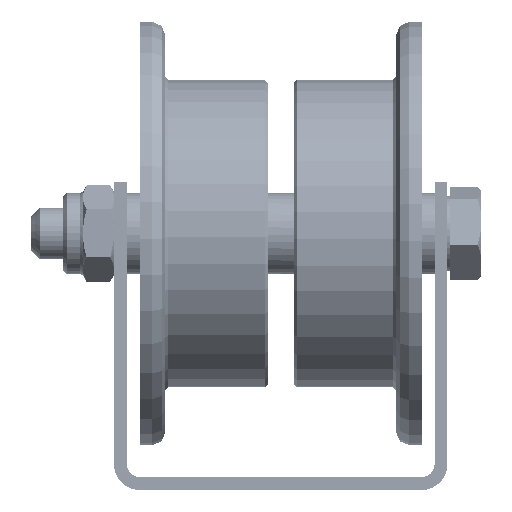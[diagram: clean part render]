
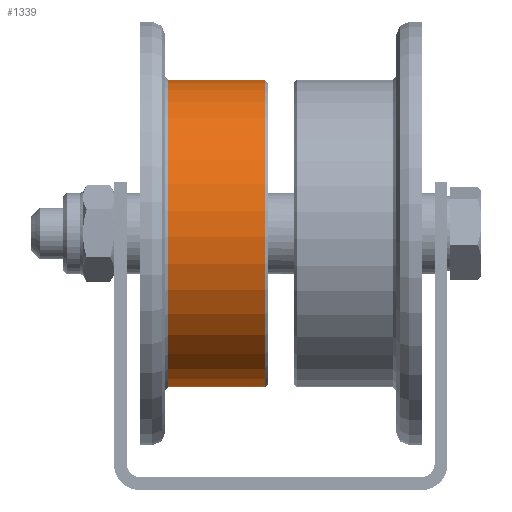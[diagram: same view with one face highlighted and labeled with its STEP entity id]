
A CAD part, front view. The second image highlights one B-rep face of the part: STEP entity #1339.
In plain terms, the highlighted cylindrical face has radius 24 mm (diameter 48 mm), a full revolution.
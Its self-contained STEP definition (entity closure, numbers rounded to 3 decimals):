
#1339 = ADVANCED_FACE( '', ( #2184, #2185 ), #2186, .T. );
#2184 = FACE_OUTER_BOUND( '', #3198, .T. );
#2185 = FACE_OUTER_BOUND( '', #3199, .T. );
#2186 = CYLINDRICAL_SURFACE( '', #3200, 24. );
#3198 = EDGE_LOOP( '', ( #4319 ) );
#3199 = EDGE_LOOP( '', ( #4320 ) );
#3200 = AXIS2_PLACEMENT_3D( '', #4321, #4322, #4323 );
#4319 = ORIENTED_EDGE( '', *, *, #5752, .T. );
#4320 = ORIENTED_EDGE( '', *, *, #5753, .T. );
#4321 = CARTESIAN_POINT( '', ( 0., -10., 0. ) );
#4322 = DIRECTION( '', ( 0., -1., 0. ) );
#4323 = DIRECTION( '', ( 0., 0., 1. ) );
#5752 = EDGE_CURVE( '', #6428, #6428, #6429, .T. );
#5753 = EDGE_CURVE( '', #6430, #6430, #6431, .F. );
#6428 = VERTEX_POINT( '', #7435 );
#6429 = CIRCLE( '', #7436, 24. );
#6430 = VERTEX_POINT( '', #7437 );
#6431 = CIRCLE( '', #7438, 24. );
#7435 = CARTESIAN_POINT( '', ( 0., -5.5, 24. ) );
#7436 = AXIS2_PLACEMENT_3D( '', #8538, #8539, #8540 );
#7437 = CARTESIAN_POINT( '', ( 0., 9.5, 24. ) );
#7438 = AXIS2_PLACEMENT_3D( '', #8541, #8542, #8543 );
#8538 = CARTESIAN_POINT( '', ( 0., -5.5, 0. ) );
#8539 = DIRECTION( '', ( 0., 1., 0. ) );
#8540 = DIRECTION( '', ( 0., 0., 1. ) );
#8541 = CARTESIAN_POINT( '', ( 0., 9.5, 0. ) );
#8542 = DIRECTION( '', ( 0., 1., 0. ) );
#8543 = DIRECTION( '', ( 0., 0., 1. ) );
